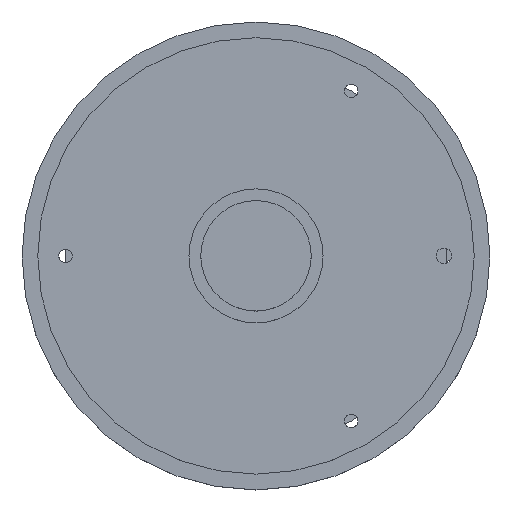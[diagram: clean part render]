
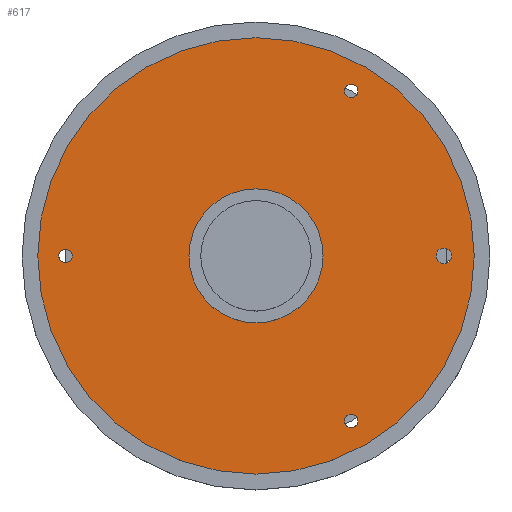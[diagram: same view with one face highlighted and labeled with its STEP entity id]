
A CAD part, top view. The second image highlights one B-rep face of the part: STEP entity #617.
In plain terms, the highlighted planar face has unit normal (0, 0, 1).
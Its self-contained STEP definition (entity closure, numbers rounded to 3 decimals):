
#361 = VERTEX_POINT('',#362);
#362 = CARTESIAN_POINT('',(166.,0.,4.));
#369 = CYLINDRICAL_SURFACE('',#370,166.);
#370 = AXIS2_PLACEMENT_3D('',#371,#372,#373);
#371 = CARTESIAN_POINT('',(0.,0.,0.));
#372 = DIRECTION('',(-0.,-0.,-1.));
#373 = DIRECTION('',(1.,0.,0.));
#388 = EDGE_CURVE('',#361,#361,#389,.T.);
#389 = SURFACE_CURVE('',#390,(#395,#402),.PCURVE_S1.);
#390 = CIRCLE('',#391,166.);
#391 = AXIS2_PLACEMENT_3D('',#392,#393,#394);
#392 = CARTESIAN_POINT('',(0.,0.,4.));
#393 = DIRECTION('',(0.,0.,1.));
#394 = DIRECTION('',(1.,0.,0.));
#395 = PCURVE('',#369,#396);
#396 = DEFINITIONAL_REPRESENTATION('',(#397),#401);
#397 = LINE('',#398,#399);
#398 = CARTESIAN_POINT('',(-0.,-4.));
#399 = VECTOR('',#400,1.);
#400 = DIRECTION('',(-1.,0.));
#401 = ( GEOMETRIC_REPRESENTATION_CONTEXT(2) 
PARAMETRIC_REPRESENTATION_CONTEXT() REPRESENTATION_CONTEXT('2D SPACE',''
  ) );
#402 = PCURVE('',#403,#408);
#403 = PLANE('',#404);
#404 = AXIS2_PLACEMENT_3D('',#405,#406,#407);
#405 = CARTESIAN_POINT('',(0.,0.,4.));
#406 = DIRECTION('',(0.,0.,1.));
#407 = DIRECTION('',(1.,0.,-0.));
#408 = DEFINITIONAL_REPRESENTATION('',(#409),#413);
#409 = CIRCLE('',#410,166.);
#410 = AXIS2_PLACEMENT_2D('',#411,#412);
#411 = CARTESIAN_POINT('',(0.,0.));
#412 = DIRECTION('',(1.,0.));
#413 = ( GEOMETRIC_REPRESENTATION_CONTEXT(2) 
PARAMETRIC_REPRESENTATION_CONTEXT() REPRESENTATION_CONTEXT('2D SPACE',''
  ) );
#470 = CYLINDRICAL_SURFACE('',#471,5.1);
#471 = AXIS2_PLACEMENT_3D('',#472,#473,#474);
#472 = CARTESIAN_POINT('',(72.5,-125.574,4.));
#473 = DIRECTION('',(0.,0.,-1.));
#474 = DIRECTION('',(-1.,0.,0.));
#505 = CYLINDRICAL_SURFACE('',#506,5.1);
#506 = AXIS2_PLACEMENT_3D('',#507,#508,#509);
#507 = CARTESIAN_POINT('',(-145.,0.,4.));
#508 = DIRECTION('',(0.,0.,-1.));
#509 = DIRECTION('',(-1.,0.,0.));
#536 = CYLINDRICAL_SURFACE('',#537,43.);
#537 = AXIS2_PLACEMENT_3D('',#538,#539,#540);
#538 = CARTESIAN_POINT('',(0.,0.,-328.));
#539 = DIRECTION('',(-0.,-0.,-1.));
#540 = DIRECTION('',(1.,0.,0.));
#571 = CYLINDRICAL_SURFACE('',#572,6.);
#572 = AXIS2_PLACEMENT_3D('',#573,#574,#575);
#573 = CARTESIAN_POINT('',(143.,0.,4.));
#574 = DIRECTION('',(0.,0.,-1.));
#575 = DIRECTION('',(-1.,0.,0.));
#606 = CYLINDRICAL_SURFACE('',#607,5.1);
#607 = AXIS2_PLACEMENT_3D('',#608,#609,#610);
#608 = CARTESIAN_POINT('',(72.5,125.574,4.));
#609 = DIRECTION('',(0.,0.,-1.));
#610 = DIRECTION('',(-1.,0.,0.));
#617 = ADVANCED_FACE('',(#618,#621,#651,#681,#711,#741),#403,.T.);
#618 = FACE_BOUND('',#619,.T.);
#619 = EDGE_LOOP('',(#620));
#620 = ORIENTED_EDGE('',*,*,#388,.T.);
#621 = FACE_BOUND('',#622,.T.);
#622 = EDGE_LOOP('',(#623));
#623 = ORIENTED_EDGE('',*,*,#624,.T.);
#624 = EDGE_CURVE('',#625,#625,#627,.T.);
#625 = VERTEX_POINT('',#626);
#626 = CARTESIAN_POINT('',(67.4,-125.574,4.));
#627 = SURFACE_CURVE('',#628,(#633,#644),.PCURVE_S1.);
#628 = CIRCLE('',#629,5.1);
#629 = AXIS2_PLACEMENT_3D('',#630,#631,#632);
#630 = CARTESIAN_POINT('',(72.5,-125.574,4.));
#631 = DIRECTION('',(0.,0.,-1.));
#632 = DIRECTION('',(-1.,0.,0.));
#633 = PCURVE('',#403,#634);
#634 = DEFINITIONAL_REPRESENTATION('',(#635),#643);
#635 = ( BOUNDED_CURVE() B_SPLINE_CURVE(2,(#636,#637,#638,#639,#640,#641
,#642),.UNSPECIFIED.,.T.,.F.) B_SPLINE_CURVE_WITH_KNOTS((1,2,2,2,2,1),(
    -2.094,0.,2.094,4.189,6.283,
8.378),.UNSPECIFIED.) CURVE() GEOMETRIC_REPRESENTATION_ITEM() 
RATIONAL_B_SPLINE_CURVE((1.,0.5,1.,0.5,1.,0.5,1.)) REPRESENTATION_ITEM(
  '') );
#636 = CARTESIAN_POINT('',(67.4,-125.574));
#637 = CARTESIAN_POINT('',(67.4,-116.74));
#638 = CARTESIAN_POINT('',(75.05,-121.157));
#639 = CARTESIAN_POINT('',(82.7,-125.574));
#640 = CARTESIAN_POINT('',(75.05,-129.99));
#641 = CARTESIAN_POINT('',(67.4,-134.407));
#642 = CARTESIAN_POINT('',(67.4,-125.574));
#643 = ( GEOMETRIC_REPRESENTATION_CONTEXT(2) 
PARAMETRIC_REPRESENTATION_CONTEXT() REPRESENTATION_CONTEXT('2D SPACE',''
  ) );
#644 = PCURVE('',#470,#645);
#645 = DEFINITIONAL_REPRESENTATION('',(#646),#650);
#646 = LINE('',#647,#648);
#647 = CARTESIAN_POINT('',(0.,0.));
#648 = VECTOR('',#649,1.);
#649 = DIRECTION('',(1.,0.));
#650 = ( GEOMETRIC_REPRESENTATION_CONTEXT(2) 
PARAMETRIC_REPRESENTATION_CONTEXT() REPRESENTATION_CONTEXT('2D SPACE',''
  ) );
#651 = FACE_BOUND('',#652,.T.);
#652 = EDGE_LOOP('',(#653));
#653 = ORIENTED_EDGE('',*,*,#654,.T.);
#654 = EDGE_CURVE('',#655,#655,#657,.T.);
#655 = VERTEX_POINT('',#656);
#656 = CARTESIAN_POINT('',(-150.1,0.,4.));
#657 = SURFACE_CURVE('',#658,(#663,#674),.PCURVE_S1.);
#658 = CIRCLE('',#659,5.1);
#659 = AXIS2_PLACEMENT_3D('',#660,#661,#662);
#660 = CARTESIAN_POINT('',(-145.,0.,4.));
#661 = DIRECTION('',(0.,0.,-1.));
#662 = DIRECTION('',(-1.,0.,0.));
#663 = PCURVE('',#403,#664);
#664 = DEFINITIONAL_REPRESENTATION('',(#665),#673);
#665 = ( BOUNDED_CURVE() B_SPLINE_CURVE(2,(#666,#667,#668,#669,#670,#671
,#672),.UNSPECIFIED.,.T.,.F.) B_SPLINE_CURVE_WITH_KNOTS((1,2,2,2,2,1),(
    -2.094,0.,2.094,4.189,6.283,
8.378),.UNSPECIFIED.) CURVE() GEOMETRIC_REPRESENTATION_ITEM() 
RATIONAL_B_SPLINE_CURVE((1.,0.5,1.,0.5,1.,0.5,1.)) REPRESENTATION_ITEM(
  '') );
#666 = CARTESIAN_POINT('',(-150.1,0.));
#667 = CARTESIAN_POINT('',(-150.1,8.833));
#668 = CARTESIAN_POINT('',(-142.45,4.417));
#669 = CARTESIAN_POINT('',(-134.8,0.));
#670 = CARTESIAN_POINT('',(-142.45,-4.417));
#671 = CARTESIAN_POINT('',(-150.1,-8.833));
#672 = CARTESIAN_POINT('',(-150.1,0.));
#673 = ( GEOMETRIC_REPRESENTATION_CONTEXT(2) 
PARAMETRIC_REPRESENTATION_CONTEXT() REPRESENTATION_CONTEXT('2D SPACE',''
  ) );
#674 = PCURVE('',#505,#675);
#675 = DEFINITIONAL_REPRESENTATION('',(#676),#680);
#676 = LINE('',#677,#678);
#677 = CARTESIAN_POINT('',(0.,0.));
#678 = VECTOR('',#679,1.);
#679 = DIRECTION('',(1.,0.));
#680 = ( GEOMETRIC_REPRESENTATION_CONTEXT(2) 
PARAMETRIC_REPRESENTATION_CONTEXT() REPRESENTATION_CONTEXT('2D SPACE',''
  ) );
#681 = FACE_BOUND('',#682,.T.);
#682 = EDGE_LOOP('',(#683));
#683 = ORIENTED_EDGE('',*,*,#684,.T.);
#684 = EDGE_CURVE('',#685,#685,#687,.T.);
#685 = VERTEX_POINT('',#686);
#686 = CARTESIAN_POINT('',(43.,0.,4.));
#687 = SURFACE_CURVE('',#688,(#693,#704),.PCURVE_S1.);
#688 = CIRCLE('',#689,43.);
#689 = AXIS2_PLACEMENT_3D('',#690,#691,#692);
#690 = CARTESIAN_POINT('',(0.,0.,4.));
#691 = DIRECTION('',(0.,0.,-1.));
#692 = DIRECTION('',(1.,0.,0.));
#693 = PCURVE('',#403,#694);
#694 = DEFINITIONAL_REPRESENTATION('',(#695),#703);
#695 = ( BOUNDED_CURVE() B_SPLINE_CURVE(2,(#696,#697,#698,#699,#700,#701
,#702),.UNSPECIFIED.,.T.,.F.) B_SPLINE_CURVE_WITH_KNOTS((1,2,2,2,2,1),(
    -2.094,0.,2.094,4.189,6.283,
8.378),.UNSPECIFIED.) CURVE() GEOMETRIC_REPRESENTATION_ITEM() 
RATIONAL_B_SPLINE_CURVE((1.,0.5,1.,0.5,1.,0.5,1.)) REPRESENTATION_ITEM(
  '') );
#696 = CARTESIAN_POINT('',(43.,0.));
#697 = CARTESIAN_POINT('',(43.,-74.478));
#698 = CARTESIAN_POINT('',(-21.5,-37.239));
#699 = CARTESIAN_POINT('',(-86.,0.));
#700 = CARTESIAN_POINT('',(-21.5,37.239));
#701 = CARTESIAN_POINT('',(43.,74.478));
#702 = CARTESIAN_POINT('',(43.,0.));
#703 = ( GEOMETRIC_REPRESENTATION_CONTEXT(2) 
PARAMETRIC_REPRESENTATION_CONTEXT() REPRESENTATION_CONTEXT('2D SPACE',''
  ) );
#704 = PCURVE('',#536,#705);
#705 = DEFINITIONAL_REPRESENTATION('',(#706),#710);
#706 = LINE('',#707,#708);
#707 = CARTESIAN_POINT('',(-6.283,-332.));
#708 = VECTOR('',#709,1.);
#709 = DIRECTION('',(1.,-0.));
#710 = ( GEOMETRIC_REPRESENTATION_CONTEXT(2) 
PARAMETRIC_REPRESENTATION_CONTEXT() REPRESENTATION_CONTEXT('2D SPACE',''
  ) );
#711 = FACE_BOUND('',#712,.T.);
#712 = EDGE_LOOP('',(#713));
#713 = ORIENTED_EDGE('',*,*,#714,.T.);
#714 = EDGE_CURVE('',#715,#715,#717,.T.);
#715 = VERTEX_POINT('',#716);
#716 = CARTESIAN_POINT('',(137.,0.,4.));
#717 = SURFACE_CURVE('',#718,(#723,#734),.PCURVE_S1.);
#718 = CIRCLE('',#719,6.);
#719 = AXIS2_PLACEMENT_3D('',#720,#721,#722);
#720 = CARTESIAN_POINT('',(143.,0.,4.));
#721 = DIRECTION('',(0.,0.,-1.));
#722 = DIRECTION('',(-1.,0.,0.));
#723 = PCURVE('',#403,#724);
#724 = DEFINITIONAL_REPRESENTATION('',(#725),#733);
#725 = ( BOUNDED_CURVE() B_SPLINE_CURVE(2,(#726,#727,#728,#729,#730,#731
,#732),.UNSPECIFIED.,.T.,.F.) B_SPLINE_CURVE_WITH_KNOTS((1,2,2,2,2,1),(
    -2.094,0.,2.094,4.189,6.283,
8.378),.UNSPECIFIED.) CURVE() GEOMETRIC_REPRESENTATION_ITEM() 
RATIONAL_B_SPLINE_CURVE((1.,0.5,1.,0.5,1.,0.5,1.)) REPRESENTATION_ITEM(
  '') );
#726 = CARTESIAN_POINT('',(137.,0.));
#727 = CARTESIAN_POINT('',(137.,10.392));
#728 = CARTESIAN_POINT('',(146.,5.196));
#729 = CARTESIAN_POINT('',(155.,0.));
#730 = CARTESIAN_POINT('',(146.,-5.196));
#731 = CARTESIAN_POINT('',(137.,-10.392));
#732 = CARTESIAN_POINT('',(137.,0.));
#733 = ( GEOMETRIC_REPRESENTATION_CONTEXT(2) 
PARAMETRIC_REPRESENTATION_CONTEXT() REPRESENTATION_CONTEXT('2D SPACE',''
  ) );
#734 = PCURVE('',#571,#735);
#735 = DEFINITIONAL_REPRESENTATION('',(#736),#740);
#736 = LINE('',#737,#738);
#737 = CARTESIAN_POINT('',(0.,0.));
#738 = VECTOR('',#739,1.);
#739 = DIRECTION('',(1.,0.));
#740 = ( GEOMETRIC_REPRESENTATION_CONTEXT(2) 
PARAMETRIC_REPRESENTATION_CONTEXT() REPRESENTATION_CONTEXT('2D SPACE',''
  ) );
#741 = FACE_BOUND('',#742,.T.);
#742 = EDGE_LOOP('',(#743));
#743 = ORIENTED_EDGE('',*,*,#744,.T.);
#744 = EDGE_CURVE('',#745,#745,#747,.T.);
#745 = VERTEX_POINT('',#746);
#746 = CARTESIAN_POINT('',(67.4,125.574,4.));
#747 = SURFACE_CURVE('',#748,(#753,#764),.PCURVE_S1.);
#748 = CIRCLE('',#749,5.1);
#749 = AXIS2_PLACEMENT_3D('',#750,#751,#752);
#750 = CARTESIAN_POINT('',(72.5,125.574,4.));
#751 = DIRECTION('',(0.,0.,-1.));
#752 = DIRECTION('',(-1.,0.,0.));
#753 = PCURVE('',#403,#754);
#754 = DEFINITIONAL_REPRESENTATION('',(#755),#763);
#755 = ( BOUNDED_CURVE() B_SPLINE_CURVE(2,(#756,#757,#758,#759,#760,#761
,#762),.UNSPECIFIED.,.T.,.F.) B_SPLINE_CURVE_WITH_KNOTS((1,2,2,2,2,1),(
    -2.094,0.,2.094,4.189,6.283,
8.378),.UNSPECIFIED.) CURVE() GEOMETRIC_REPRESENTATION_ITEM() 
RATIONAL_B_SPLINE_CURVE((1.,0.5,1.,0.5,1.,0.5,1.)) REPRESENTATION_ITEM(
  '') );
#756 = CARTESIAN_POINT('',(67.4,125.574));
#757 = CARTESIAN_POINT('',(67.4,134.407));
#758 = CARTESIAN_POINT('',(75.05,129.99));
#759 = CARTESIAN_POINT('',(82.7,125.574));
#760 = CARTESIAN_POINT('',(75.05,121.157));
#761 = CARTESIAN_POINT('',(67.4,116.74));
#762 = CARTESIAN_POINT('',(67.4,125.574));
#763 = ( GEOMETRIC_REPRESENTATION_CONTEXT(2) 
PARAMETRIC_REPRESENTATION_CONTEXT() REPRESENTATION_CONTEXT('2D SPACE',''
  ) );
#764 = PCURVE('',#606,#765);
#765 = DEFINITIONAL_REPRESENTATION('',(#766),#770);
#766 = LINE('',#767,#768);
#767 = CARTESIAN_POINT('',(0.,0.));
#768 = VECTOR('',#769,1.);
#769 = DIRECTION('',(1.,0.));
#770 = ( GEOMETRIC_REPRESENTATION_CONTEXT(2) 
PARAMETRIC_REPRESENTATION_CONTEXT() REPRESENTATION_CONTEXT('2D SPACE',''
  ) );
